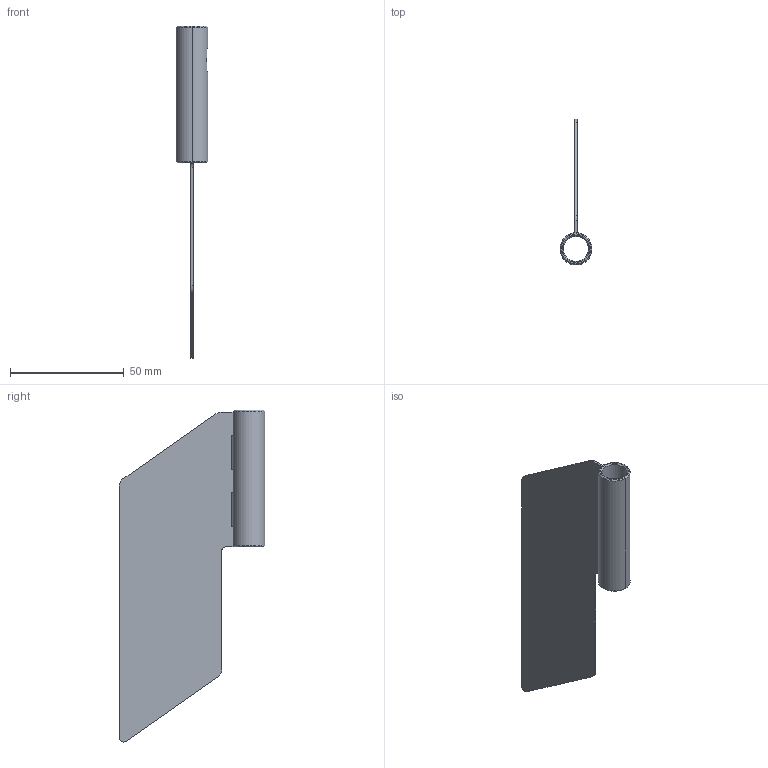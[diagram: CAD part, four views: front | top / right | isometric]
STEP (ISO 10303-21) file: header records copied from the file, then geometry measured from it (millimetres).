
FILE_DESCRIPTION(/* description */ (''),/* implementation_level */ '2;1');
FILE_NAME(/* name */ 'AC7-INOX.stp',/* time_stamp */ '2024-03-22T11:19:54+01:00',/* author */ ('filippo.guidetti'),/* organization */ (''),/* preprocessor_version */ 'ST-DEVELOPER v20',/* originating_system */ 'Autodesk Inventor 2024',/* authorisation */ '');
FILE_SCHEMA (('AUTOMOTIVE_DESIGN { 1 0 10303 214 3 1 1 }'));
Length unit declared in the file: millimetre
Products named in the file (1): AC7-INOX
Bounding box: 14 x 64 x 145.66 mm (x, y, z)
Volume: 8992.8 mm3; surface area: 16114.7 mm2
Topology: 1 solids, 1 shells, 44 faces, 126 edges, 81 vertices
Faces by surface type: plane 27, cylinder 13, cone 4
Full cylindrical faces by diameter (mm): 5.5 x1, 11 x1
Entity records: 1615 total; most frequent: CARTESIAN_POINT 298, DIRECTION 255, ORIENTED_EDGE 254, EDGE_CURVE 127, AXIS2_PLACEMENT_3D 88, VERTEX_POINT 81, LINE 79, VECTOR 79
